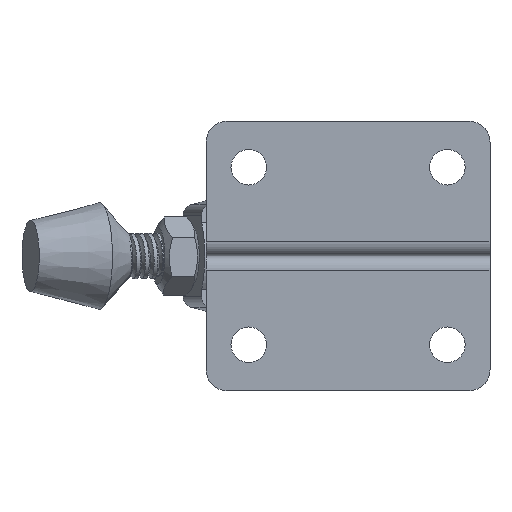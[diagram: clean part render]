
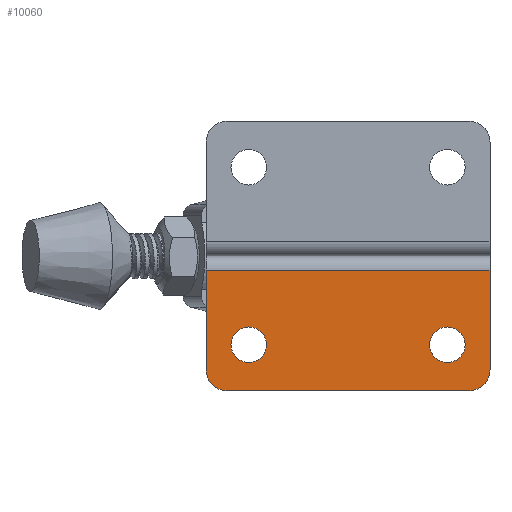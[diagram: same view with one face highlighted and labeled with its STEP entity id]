
A CAD part, front view. The second image highlights one B-rep face of the part: STEP entity #10060.
In plain terms, the highlighted planar face has unit normal (0, -1, 0).
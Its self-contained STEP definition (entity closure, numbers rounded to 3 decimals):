
#293=CIRCLE('',#10764,3.);
#294=CIRCLE('',#10765,3.);
#295=CIRCLE('',#10766,2.5);
#296=CIRCLE('',#10767,2.5);
#297=CIRCLE('',#10768,2.5);
#298=CIRCLE('',#10769,2.5);
#1191=LINE('',#23432,#1995);
#1197=LINE('',#23459,#2001);
#1204=LINE('',#23472,#2008);
#1205=LINE('',#23477,#2009);
#1995=VECTOR('',#12426,1000.);
#2001=VECTOR('',#12454,1000.);
#2008=VECTOR('',#12473,1000.);
#2009=VECTOR('',#12478,1000.);
#2333=FACE_BOUND('',#3366,.T.);
#2334=FACE_BOUND('',#3367,.T.);
#2779=FACE_OUTER_BOUND('',#3365,.T.);
#3365=EDGE_LOOP('',(#8789,#8790,#8791,#8792,#8793,#8794));
#3366=EDGE_LOOP('',(#8795,#8796));
#3367=EDGE_LOOP('',(#8797,#8798));
#4717=VERTEX_POINT('',#23430);
#4718=VERTEX_POINT('',#23431);
#4727=VERTEX_POINT('',#23456);
#4728=VERTEX_POINT('',#23458);
#4729=VERTEX_POINT('',#23474);
#4730=VERTEX_POINT('',#23476);
#4731=VERTEX_POINT('',#23479);
#4732=VERTEX_POINT('',#23480);
#4733=VERTEX_POINT('',#23483);
#4734=VERTEX_POINT('',#23484);
#6102=EDGE_CURVE('',#4717,#4718,#1191,.T.);
#6116=EDGE_CURVE('',#4727,#4728,#1197,.T.);
#6123=EDGE_CURVE('',#4727,#4717,#1204,.T.);
#6124=EDGE_CURVE('',#4718,#4729,#293,.T.);
#6125=EDGE_CURVE('',#4729,#4730,#1205,.T.);
#6126=EDGE_CURVE('',#4730,#4728,#294,.T.);
#6127=EDGE_CURVE('',#4731,#4732,#295,.T.);
#6128=EDGE_CURVE('',#4732,#4731,#296,.T.);
#6129=EDGE_CURVE('',#4733,#4734,#297,.T.);
#6130=EDGE_CURVE('',#4734,#4733,#298,.T.);
#8789=ORIENTED_EDGE('',*,*,#6116,.F.);
#8790=ORIENTED_EDGE('',*,*,#6123,.T.);
#8791=ORIENTED_EDGE('',*,*,#6102,.T.);
#8792=ORIENTED_EDGE('',*,*,#6124,.T.);
#8793=ORIENTED_EDGE('',*,*,#6125,.T.);
#8794=ORIENTED_EDGE('',*,*,#6126,.T.);
#8795=ORIENTED_EDGE('',*,*,#6127,.F.);
#8796=ORIENTED_EDGE('',*,*,#6128,.F.);
#8797=ORIENTED_EDGE('',*,*,#6129,.F.);
#8798=ORIENTED_EDGE('',*,*,#6130,.F.);
#9602=PLANE('',#10763);
#10060=ADVANCED_FACE('',(#2779,#2333,#2334),#9602,.F.);
#10763=AXIS2_PLACEMENT_3D('',#23473,#12474,#12475);
#10764=AXIS2_PLACEMENT_3D('',#23475,#12476,#12477);
#10765=AXIS2_PLACEMENT_3D('',#23478,#12479,#12480);
#10766=AXIS2_PLACEMENT_3D('',#23481,#12481,#12482);
#10767=AXIS2_PLACEMENT_3D('',#23482,#12483,#12484);
#10768=AXIS2_PLACEMENT_3D('',#23485,#12485,#12486);
#10769=AXIS2_PLACEMENT_3D('',#23486,#12487,#12488);
#12426=DIRECTION('',(0.,0.,-1.));
#12454=DIRECTION('',(0.,0.,-1.));
#12473=DIRECTION('',(-1.,0.,0.));
#12474=DIRECTION('center_axis',(0.,1.,0.));
#12475=DIRECTION('ref_axis',(0.,0.,1.));
#12476=DIRECTION('center_axis',(0.,-1.,0.));
#12477=DIRECTION('ref_axis',(0.,0.,1.));
#12478=DIRECTION('',(1.,0.,0.));
#12479=DIRECTION('center_axis',(0.,-1.,0.));
#12480=DIRECTION('ref_axis',(0.,0.,1.));
#12481=DIRECTION('center_axis',(0.,-1.,0.));
#12482=DIRECTION('ref_axis',(0.,0.,-1.));
#12483=DIRECTION('center_axis',(0.,-1.,0.));
#12484=DIRECTION('ref_axis',(0.,0.,-1.));
#12485=DIRECTION('center_axis',(0.,-1.,0.));
#12486=DIRECTION('ref_axis',(0.,0.,1.));
#12487=DIRECTION('center_axis',(0.,-1.,0.));
#12488=DIRECTION('ref_axis',(0.,0.,1.));
#23430=CARTESIAN_POINT('',(0.,0.,0.));
#23431=CARTESIAN_POINT('',(0.,0.,-14.));
#23432=CARTESIAN_POINT('',(0.,0.,2.));
#23456=CARTESIAN_POINT('',(40.,0.,0.));
#23458=CARTESIAN_POINT('',(40.,0.,-14.));
#23459=CARTESIAN_POINT('',(40.,0.,2.));
#23472=CARTESIAN_POINT('',(0.,0.,0.));
#23473=CARTESIAN_POINT('Origin',(40.,0.,2.));
#23474=CARTESIAN_POINT('',(3.,0.,-17.));
#23475=CARTESIAN_POINT('Origin',(3.,0.,-14.));
#23476=CARTESIAN_POINT('',(37.,0.,-17.));
#23477=CARTESIAN_POINT('',(37.,0.,-17.));
#23478=CARTESIAN_POINT('Origin',(37.,0.,-14.));
#23479=CARTESIAN_POINT('',(6.,0.,-13.));
#23480=CARTESIAN_POINT('',(6.,0.,-8.));
#23481=CARTESIAN_POINT('Origin',(6.,0.,-10.5));
#23482=CARTESIAN_POINT('Origin',(6.,0.,-10.5));
#23483=CARTESIAN_POINT('',(34.,0.,-13.));
#23484=CARTESIAN_POINT('',(34.,0.,-8.));
#23485=CARTESIAN_POINT('Origin',(34.,0.,-10.5));
#23486=CARTESIAN_POINT('Origin',(34.,0.,-10.5));
